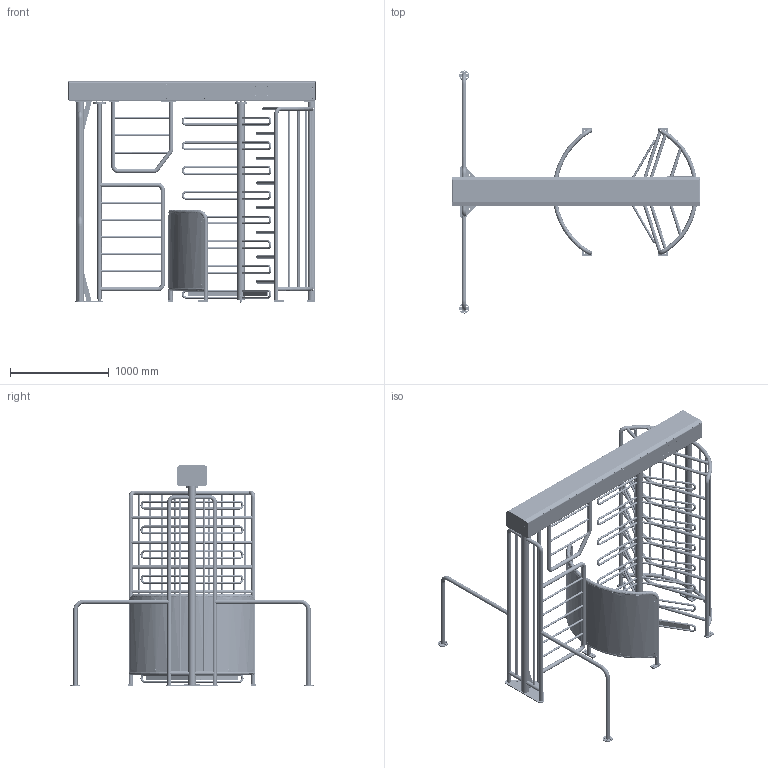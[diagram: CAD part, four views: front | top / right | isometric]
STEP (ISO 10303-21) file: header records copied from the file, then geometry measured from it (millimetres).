
FILE_DESCRIPTION(/* description */ ('Unknown'),/* implementation_level */ '2;1');
FILE_NAME(/* name */ '55870031_00',/* time_stamp */ '2026-04-24T08:26:44+02:00',/* author */ ('Unknown'),/* organization */ ('Unknown'),/* preprocessor_version */ 'ST-DEVELOPER v18.104',/* originating_system */ 'Solid Edge',/* authorisation */ 'Unknown');
FILE_SCHEMA (('AUTOMOTIVE_DESIGN {1 0 10303 214 3 1 1}'));
Products named in the file (1): 55870031
Bounding box: 2500 x 2457.6 x 2253.09 mm (x, y, z)
Volume: 42167131 mm3; surface area: 26589626.7 mm2
Topology: 292 solids, 292 shells, 5015 faces, 12356 edges, 8016 vertices
Faces by surface type: plane 2786, cylinder 1233, cone 676, torus 292, sphere 24, bspline 4
Full cylindrical faces by diameter (mm): 0.1 x12, 1 x14, 2.387 x4, 2.459 x12, 2.5 x8, 2.693 x4, 3 x28, 3.1 x4, 3.14 x2, 3.2 x8, 3.242 x4, 4 x18, 4.134 x20, 4.2 x9, 4.5 x6, 4.8 x2, 5 x36, 5.3 x4, 5.5 x20, 5.9 x6, 6 x40, 6.5 x1, 6.6 x4, 6.8 x6, 7 x10, 7.5 x2, 8 x20, 8.16 x2, 8.376 x3, 8.5 x41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
Entity records: 183167 total; most frequent: CARTESIAN_POINT 66553, DIRECTION 21586, ORIENTED_EDGE 19766, EDGE_CURVE 9883, AXIS2_PLACEMENT_3D 8584, FACE_BOUND 7910, EDGE_LOOP 7870, VERTEX_POINT 7337
